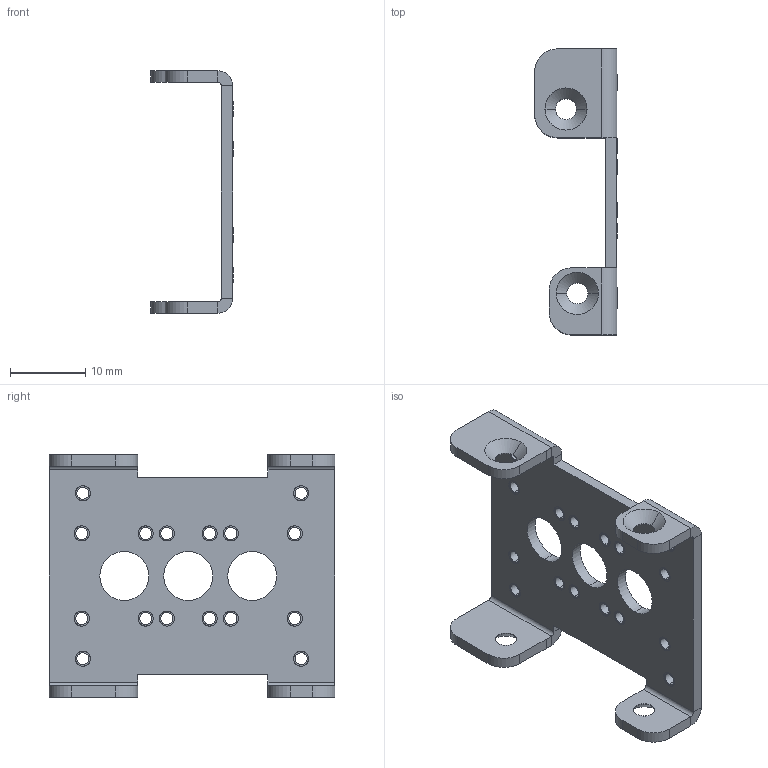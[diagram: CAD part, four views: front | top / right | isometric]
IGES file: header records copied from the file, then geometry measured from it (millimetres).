
Start section:  PTC IGES file: of-s.igs
Global section: file name: of-s.igs; native system: Pro/ENGINEER by Parametric Technology Corporation; preprocessor: 2005310; author: bono; organization: Unknown; date: 060501.144059; units: millimetre
Bounding box: 10.96 x 38 x 32.2 mm (x, y, z)
Surface area: 3379.6 mm2 (no closed solid volume)
Topology: 0 solids, 0 shells, 176 faces, 1380 edges, 1668 vertices
Faces by surface type: revolution 134, bspline 42
